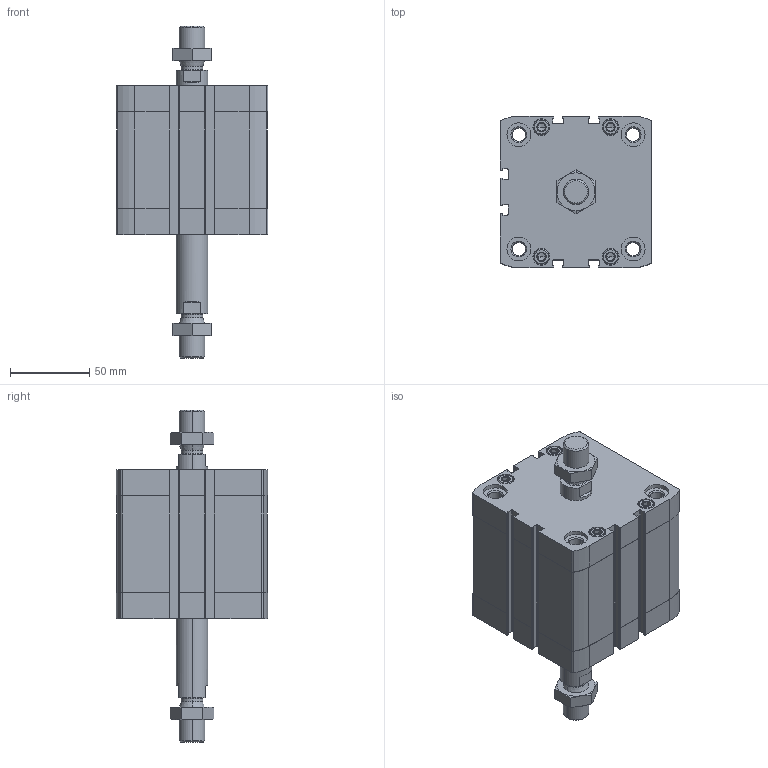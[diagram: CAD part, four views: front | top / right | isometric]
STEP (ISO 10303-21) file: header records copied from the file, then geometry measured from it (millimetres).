
FILE_DESCRIPTION (( 'STEP AP203' ), '1' );
FILE_NAME ('CCN80-40-P.STEP', '2020-06-22T19:06:44', ( '' ), ( '' ), 'SwSTEP 2.0', 'SolidWorks 2019', '' );
FILE_SCHEMA (( 'CONFIG_CONTROL_DESIGN' ));
Length unit declared in the file: millimetre
Products named in the file (1): CCN80-40-P
Bounding box: 95.5 x 95.5 x 209.2 mm (x, y, z)
Volume: 647311.9 mm3; surface area: 129220.8 mm2
Topology: 4 solids, 4 shells, 544 faces, 1352 edges, 848 vertices
Faces by surface type: plane 248, cylinder 196, cone 92, torus 8
Entity records: 17807 total; most frequent: CARTESIAN_POINT 4577, DIRECTION 2866, ORIENTED_EDGE 2672, EDGE_CURVE 1336, AXIS2_PLACEMENT_3D 1077, VERTEX_POINT 848, LINE 712, VECTOR 712
